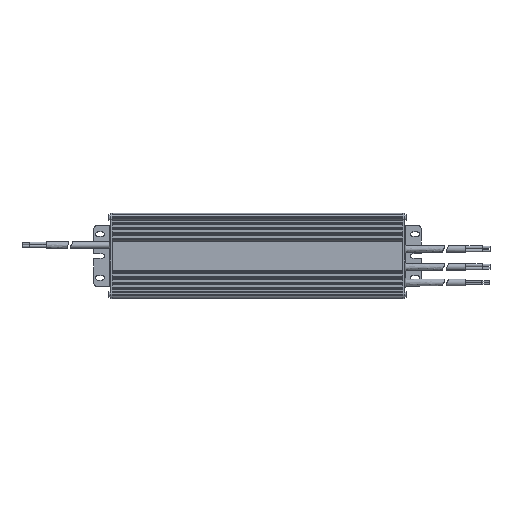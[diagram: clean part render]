
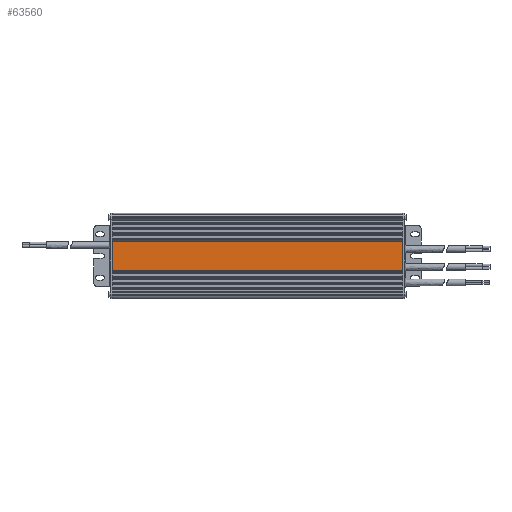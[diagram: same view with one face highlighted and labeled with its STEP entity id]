
A CAD part, top view. The second image highlights one B-rep face of the part: STEP entity #63560.
In plain terms, the highlighted free-form (B-spline) face has degree [3, 3] with [4, 4] control points.
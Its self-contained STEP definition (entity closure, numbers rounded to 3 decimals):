
#14132=DIRECTION('',(0.,1.,0.));
#14133=VECTOR('',#14132,26.567);
#14134=CARTESIAN_POINT('',(270.9,-13.283,
37.999));
#14135=LINE('',#14134,#14133);
#14308=DIRECTION('',(0.,1.,0.));
#14309=VECTOR('',#14308,26.567);
#14310=CARTESIAN_POINT('',(10.9,-13.283,37.999));
#14311=LINE('',#14310,#14309);
#14312=DIRECTION('',(1.,0.,0.));
#14313=VECTOR('',#14312,260.);
#14314=CARTESIAN_POINT('',(10.9,-13.283,37.999));
#14315=LINE('',#14314,#14313);
#14316=DIRECTION('',(1.,0.,0.));
#14317=VECTOR('',#14316,260.);
#14318=CARTESIAN_POINT('',(10.9,13.283,37.999));
#14319=LINE('',#14318,#14317);
#38473=CARTESIAN_POINT('',(270.9,-13.283,
37.999));
#38474=CARTESIAN_POINT('',(270.9,13.283,37.999));
#38475=VERTEX_POINT('',#38473);
#38476=VERTEX_POINT('',#38474);
#38838=CARTESIAN_POINT('',(10.9,-13.283,37.999));
#38839=VERTEX_POINT('',#38838);
#38840=CARTESIAN_POINT('',(10.9,13.283,37.999));
#38841=VERTEX_POINT('',#38840);
#63536=CARTESIAN_POINT('',(276.1,-13.815,
37.999));
#63537=CARTESIAN_POINT('',(185.967,-13.815,
37.999));
#63538=CARTESIAN_POINT('',(95.833,-13.815,
37.999));
#63539=CARTESIAN_POINT('',(5.7,-13.815,
37.999));
#63540=CARTESIAN_POINT('',(276.1,-4.605,
37.999));
#63541=CARTESIAN_POINT('',(185.967,-4.605,
37.999));
#63542=CARTESIAN_POINT('',(95.833,-4.605,
37.999));
#63543=CARTESIAN_POINT('',(5.7,-4.605,
37.999));
#63544=CARTESIAN_POINT('',(276.1,4.605,37.999));
#63545=CARTESIAN_POINT('',(185.967,4.605,37.999));
#63546=CARTESIAN_POINT('',(95.833,4.605,37.999));
#63547=CARTESIAN_POINT('',(5.7,4.605,37.999));
#63548=CARTESIAN_POINT('',(276.1,13.815,37.999));
#63549=CARTESIAN_POINT('',(185.967,13.815,37.999));
#63550=CARTESIAN_POINT('',(95.833,13.815,37.999));
#63551=CARTESIAN_POINT('',(5.7,13.815,37.999));
#63552=B_SPLINE_SURFACE_WITH_KNOTS('',3,3,((#63536,#63537,#63538,#63539),
(#63540,#63541,#63542,#63543),(#63544,#63545,#63546,#63547),(#63548,#63549,
#63550,#63551)),.UNSPECIFIED.,.F.,.F.,.F.,(4,4),(4,4),(-13.815,
13.815),(-27.7,242.7),.UNSPECIFIED.);
#63553=ORIENTED_EDGE('',*,*,#55841,.T.);
#63555=ORIENTED_EDGE('',*,*,#63554,.T.);
#63556=ORIENTED_EDGE('',*,*,#63032,.F.);
#63557=ORIENTED_EDGE('',*,*,#63529,.F.);
#63558=EDGE_LOOP('',(#63553,#63555,#63556,#63557));
#63559=FACE_OUTER_BOUND('',#63558,.F.);
#63560=ADVANCED_FACE('',(#63559),#63552,.T.);
#55841=EDGE_CURVE('',#38839,#38841,#14311,.T.);
#63032=EDGE_CURVE('',#38475,#38476,#14135,.T.);
#63529=EDGE_CURVE('',#38839,#38475,#14315,.T.);
#63554=EDGE_CURVE('',#38841,#38476,#14319,.T.);
